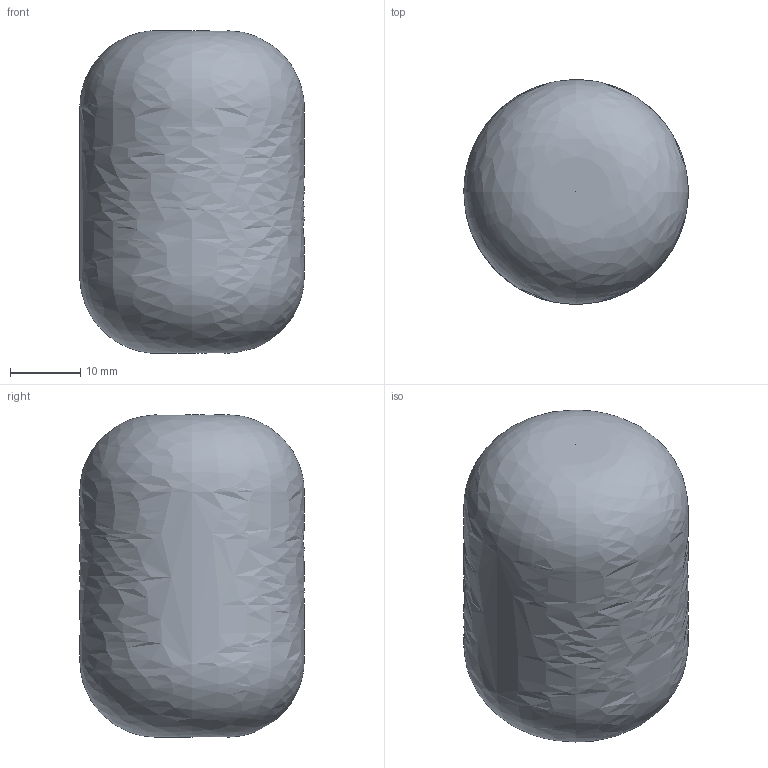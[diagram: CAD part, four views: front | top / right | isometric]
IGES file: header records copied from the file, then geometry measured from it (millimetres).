
Start section: IGES File generated by SURFCAM(Original from: MPRO)
Global section: file name: C:\Documents and Settings\CAD20001\Desktop\CMP.igs; native system: SURFCAM VERSION 7.1; preprocessor: DSN2IGS 7.10; author: Imballi Alimentari; organization: No Author; date: 20001209.135802; units: millimetre
Bounding box: 32 x 32 x 46 mm (x, y, z)
Surface area: 9535.8 mm2 (no closed solid volume)
Topology: 0 solids, 0 shells, 247 faces, 1039 edges, 1085 vertices
Faces by surface type: bspline 247
